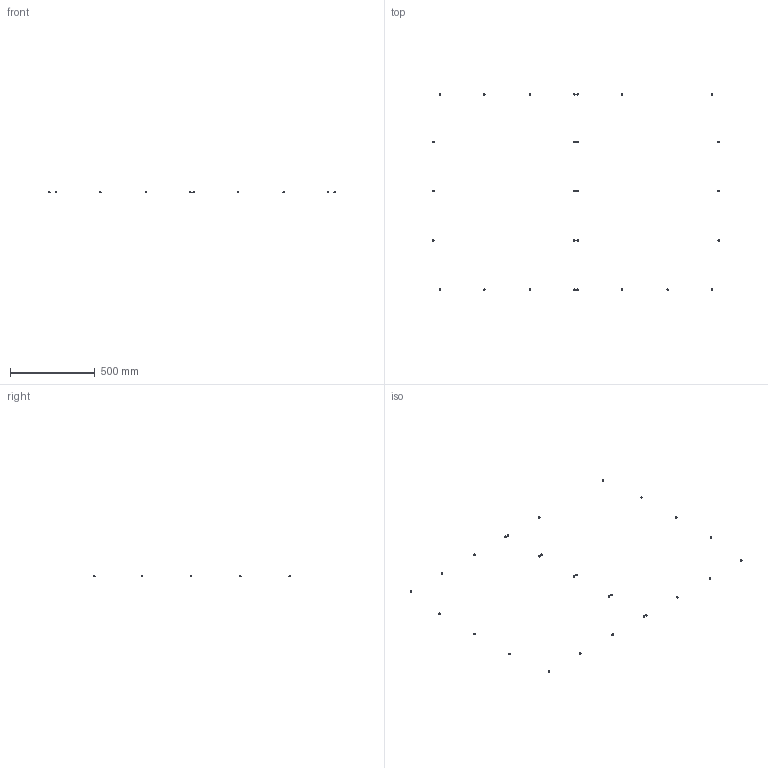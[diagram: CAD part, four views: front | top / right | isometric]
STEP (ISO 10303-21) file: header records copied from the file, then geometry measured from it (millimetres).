
FILE_DESCRIPTION(/* description */ (''),/* implementation_level */ '2;1');
FILE_NAME(/* name */ '14.frame-panels#14.1#BCB5-6',/* time_stamp */ '2014-12-01T20:19:54+01:00',/* author */ (''),/* organization */ (''),/* preprocessor_version */ 'ST-DEVELOPER v14',/* originating_system */ '',/* authorisation */ '');
FILE_SCHEMA (('AUTOMOTIVE_DESIGN'));
Length unit declared in the file: millimetre
Products named in the file (2): Document; screw ISO7380-like, button, M5x06
Assembly tree (19 placements, depth 2):
  Document
    screw ISO7380-like, button, M5x06  x19
Bounding box: 1689.5 x 1159.5 x 8.75 mm (x, y, z)
Volume: 6955.5 mm3; surface area: 7800.7 mm2
Topology: 27 solids, 27 shells, 675 faces, 1566 edges, 945 vertices
Faces by surface type: plane 405, bspline 270
Entity records: 13801 total; most frequent: CARTESIAN_POINT 6916, B_SPLINE_CURVE_WITH_KNOTS 1134, ORIENTED_EDGE 1008, PCURVE 1008, DEFINITIONAL_REPRESENTATION 1008, SURFACE_CURVE 504, EDGE_CURVE 504, VERTEX_POINT 315
